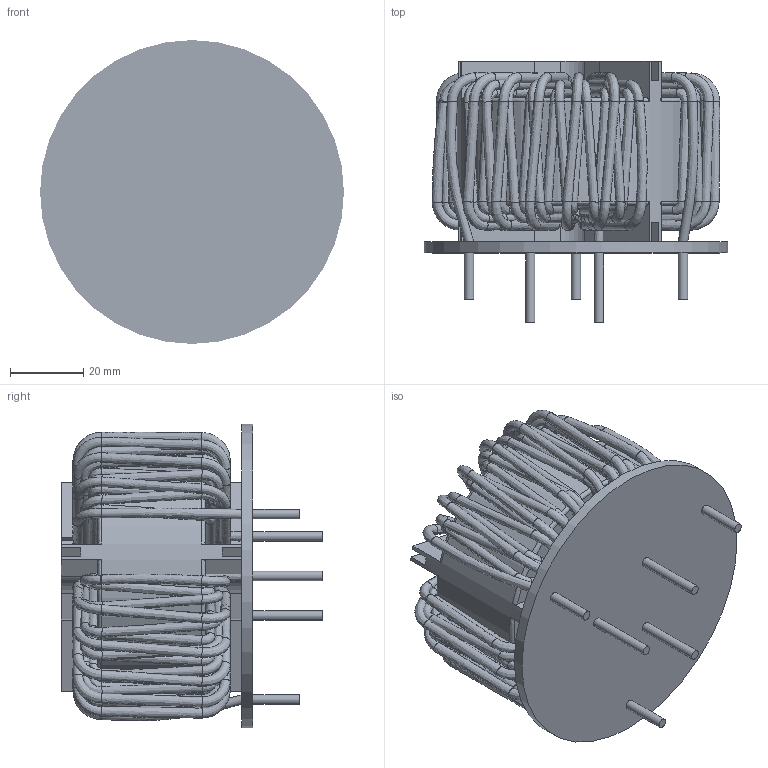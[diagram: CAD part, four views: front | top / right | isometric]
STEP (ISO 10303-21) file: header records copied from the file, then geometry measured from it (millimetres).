
FILE_DESCRIPTION (( 'STEP AP214' ), '1' );
FILE_NAME ('TPA-503U-B40A_REVA.STEP', '2019-07-26T16:41:46', ( '' ), ( '' ), 'SwSTEP 2.0', 'SolidWorks 2015', '' );
FILE_SCHEMA (( 'AUTOMOTIVE_DESIGN' ));
Length unit declared in the file: inch
Products named in the file (19): CN70-35-50G_1; 009FRB-TPA85_1; LONG LEAD_1; 22T-WINDING_1; TPA-503U-B40A_REVA; SHORT LEAD_1; SPACER_1
Assembly tree (12 placements, depth 2):
  CN70-35-50G_1
  009FRB-TPA85_1
  LONG LEAD_1
  22T-WINDING_1
  TPA-503U-B40A_REVA
    009FRB-TPA85_1
    CN70-35-50G_1
    LONG LEAD_1  x3
    SHORT LEAD_1  x3
    SPACER_1
    22T-WINDING_1  x3
Bounding box: 83 x 71.35 x 83 mm (x, y, z)
Volume: 144451.9 mm3; surface area: 97488.8 mm2
Topology: 15 solids, 15 shells, 651 faces, 1342 edges, 725 vertices
Faces by surface type: bspline 531, plane 91, cylinder 29
Full cylindrical faces by diameter (mm): 2.58 x18, 65 x1, 83 x1
Entity records: 117037 total; most frequent: CARTESIAN_POINT 108659, ORIENTED_EDGE 862, DIRECTION 500, EDGE_LOOP 476, FACE_OUTER_BOUND 462, EDGE_CURVE 431, VERTEX_POINT 353, LENGTH_MEASURE_WITH_UNIT 297
